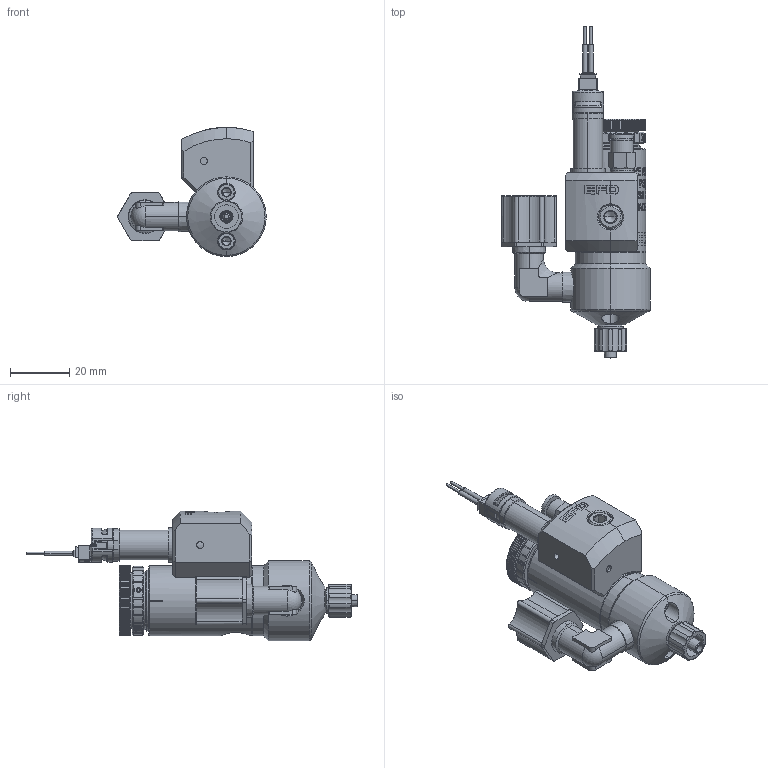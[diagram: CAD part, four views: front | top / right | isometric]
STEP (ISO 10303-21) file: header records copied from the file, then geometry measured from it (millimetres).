
FILE_DESCRIPTION (( 'STEP AP214' ), '1' );
FILE_NAME ('NORDSONEFD-7015582 VALVE DIAPHRAGM 752V SS BP W BACKPACK.STEP', '2019-01-04T15:56:58', ( '' ), ( '' ), 'SwSTEP 2.0', 'SolidWorks 2018', '' );
FILE_SCHEMA (( 'AUTOMOTIVE_DESIGN' ));
Length unit declared in the file: inch
Products named in the file (1): NORDSONEFD-7015582 VALVE DIAPHRAGM 752V SS BP W BACKPACK
Bounding box: 50.19 x 112.12 x 43.61 mm (x, y, z)
Volume: 47406.9 mm3; surface area: 26391.6 mm2
Topology: 2 solids, 2 shells, 3482 faces, 9305 edges, 5934 vertices
Faces by surface type: plane 1341, cylinder 1049, bspline 613, torus 238, cone 202, sphere 39
Entity records: 186470 total; most frequent: CARTESIAN_POINT 96272, ORIENTED_EDGE 18528, DIRECTION 14459, EDGE_CURVE 9264, VERTEX_POINT 5930, AXIS2_PLACEMENT_3D 5426, EDGE_LOOP 3744, VECTOR 3607
